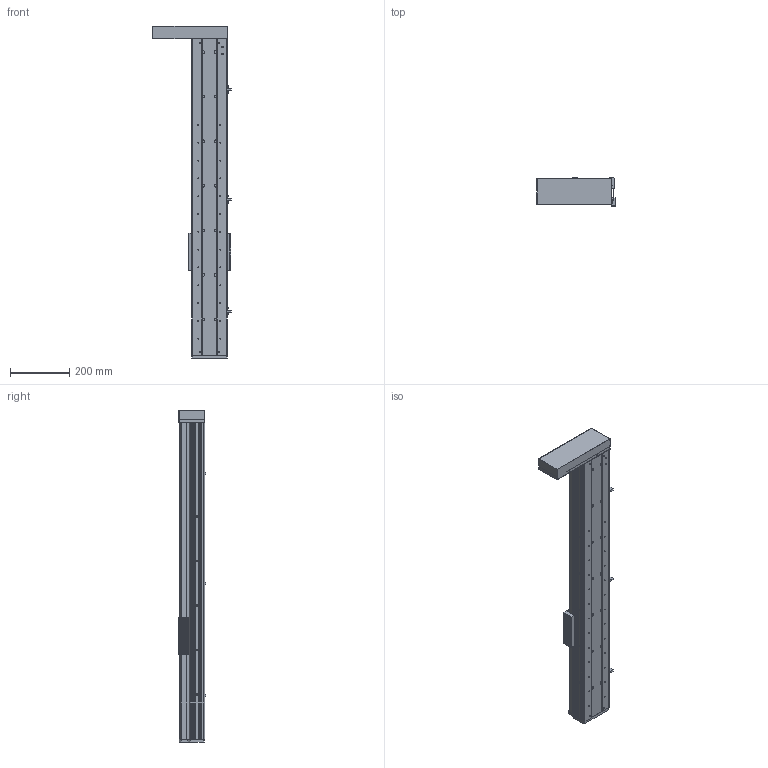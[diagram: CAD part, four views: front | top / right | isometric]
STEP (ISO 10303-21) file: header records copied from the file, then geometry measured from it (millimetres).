
FILE_DESCRIPTION (( 'STEP AP214' ), '1' );
FILE_NAME ('CF120B-C-850-FWL.STEP', '2020-01-15T08:53:55', ( '微软用户' ), ( '微软中国' ), 'SwSTEP 2.0', 'SolidWorks 2016', '' );
FILE_SCHEMA (( 'AUTOMOTIVE_DESIGN' ));
Length unit declared in the file: millimetre
Products named in the file (14): 嫖萇羲壽; 75-86-95癹弇羲壽覜茼え; 120B酘殏殏萇儂啣; CF120-2嘐隅釱 - 萵掛; 殏俔肮祭謫欶; CF120-2耜啣; CF120-2盓厥釱; CF120B裔啣-850; CF120-2-2賑雄啣; CF120-2-1賑雄輸; EGR15絳寢-850; EGH-15-CABZnew; CF120B臏倰第-850; CF120B-C-850-FWL
Assembly tree (19 placements, depth 2):
  CF120B-C-850-FWL
    CF120B臏倰第-850
    EGH-15-CABZnew  x4
    EGR15絳寢-850  x2
    CF120-2-1賑雄輸
    CF120-2-2賑雄啣
    CF120B裔啣-850
    CF120-2盓厥釱
    CF120-2耜啣
    殏俔肮祭謫欶
    CF120-2嘐隅釱 - 萵掛
    120B酘殏殏萇儂啣
    75-86-95癹弇羲壽覜茼え
    嫖萇羲壽  x3
Bounding box: 264.6 x 94.1 x 1118 mm (x, y, z)
Volume: 4018773.6 mm3; surface area: 1667148.8 mm2
Topology: 15 solids, 67 shells, 7351 faces, 27873 edges, 19168 vertices
Faces by surface type: plane 3550, bspline 2348, cylinder 1081, cone 148, torus 128, sphere 96
Entity records: 133577 total; most frequent: CARTESIAN_POINT 42744, ORIENTED_EDGE 15678, DIRECTION 12508, EDGE_CURVE 8963, VERTEX_POINT 6133, VECTOR 5166, LINE 5166, AXIS2_PLACEMENT_3D 3671
